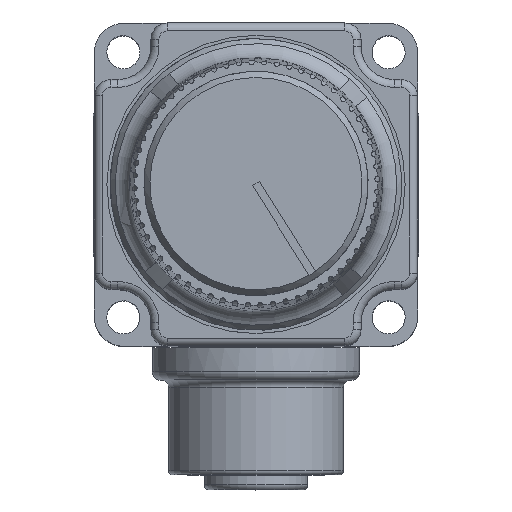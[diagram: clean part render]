
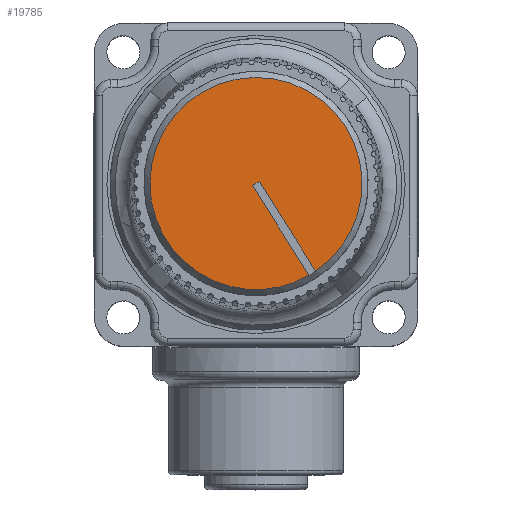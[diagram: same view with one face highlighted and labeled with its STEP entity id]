
A CAD part, top view. The second image highlights one B-rep face of the part: STEP entity #19785.
In plain terms, the highlighted planar face has unit normal (0, 0, 1).
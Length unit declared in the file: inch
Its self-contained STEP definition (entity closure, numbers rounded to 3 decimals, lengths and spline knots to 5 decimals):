
#2079=LINE('',#38368,#3464);
#2084=LINE('',#38387,#3469);
#2087=LINE('',#38392,#3472);
#3464=VECTOR('',#26464,0.3937);
#3469=VECTOR('',#26475,0.3937);
#3472=VECTOR('',#26480,0.3937);
#4776=FACE_OUTER_BOUND('',#5962,.T.);
#5962=EDGE_LOOP('',(#16021,#16022,#16023,#16024,#16025));
#6850=CIRCLE('',#21690,0.4);
#6851=CIRCLE('',#21691,0.4);
#8538=VERTEX_POINT('',#38366);
#8539=VERTEX_POINT('',#38367);
#8542=VERTEX_POINT('',#38380);
#8544=VERTEX_POINT('',#38386);
#8546=VERTEX_POINT('',#38396);
#11077=EDGE_CURVE('',#8538,#8539,#2079,.T.);
#11084=EDGE_CURVE('',#8544,#8542,#2084,.T.);
#11087=EDGE_CURVE('',#8539,#8544,#2087,.T.);
#11089=EDGE_CURVE('',#8542,#8546,#6850,.T.);
#11090=EDGE_CURVE('',#8546,#8538,#6851,.T.);
#16021=ORIENTED_EDGE('',*,*,#11084,.T.);
#16022=ORIENTED_EDGE('',*,*,#11089,.T.);
#16023=ORIENTED_EDGE('',*,*,#11090,.T.);
#16024=ORIENTED_EDGE('',*,*,#11077,.T.);
#16025=ORIENTED_EDGE('',*,*,#11087,.T.);
#17748=PLANE('',#21694);
#19785=ADVANCED_FACE('',(#4776),#17748,.T.);
#21690=AXIS2_PLACEMENT_3D('',#38397,#26486,#26487);
#21691=AXIS2_PLACEMENT_3D('',#38398,#26488,#26489);
#21694=AXIS2_PLACEMENT_3D('',#38404,#26495,#26496);
#26464=DIRECTION('',(-0.532,0.847,0.));
#26475=DIRECTION('',(0.532,-0.847,0.));
#26480=DIRECTION('',(0.847,0.532,0.));
#26486=DIRECTION('center_axis',(0.,0.,1.));
#26487=DIRECTION('ref_axis',(0.847,0.532,0.));
#26488=DIRECTION('center_axis',(0.,0.,1.));
#26489=DIRECTION('ref_axis',(0.847,0.532,0.));
#26495=DIRECTION('center_axis',(0.,0.,1.));
#26496=DIRECTION('ref_axis',(1.,0.,0.));
#38366=CARTESIAN_POINT('',(-0.05585,-0.4515,1.8705));
#38367=CARTESIAN_POINT('',(-0.26834,-0.11294,1.8705));
#38368=CARTESIAN_POINT('',(-0.05585,-0.4515,1.8705));
#38380=CARTESIAN_POINT('',(-0.03044,-0.43556,1.8705));
#38386=CARTESIAN_POINT('',(-0.24293,-0.09699,1.8705));
#38387=CARTESIAN_POINT('',(-0.24293,-0.09699,1.8705));
#38392=CARTESIAN_POINT('',(-0.26834,-0.11294,1.8705));
#38396=CARTESIAN_POINT('',(-0.40779,-0.4749,1.8705));
#38397=CARTESIAN_POINT('Origin',(-0.25563,-0.10497,
1.8705));
#38398=CARTESIAN_POINT('Origin',(-0.25563,-0.10497,
1.8705));
#38404=CARTESIAN_POINT('Origin',(-0.60441,-0.3208,
1.8705));
